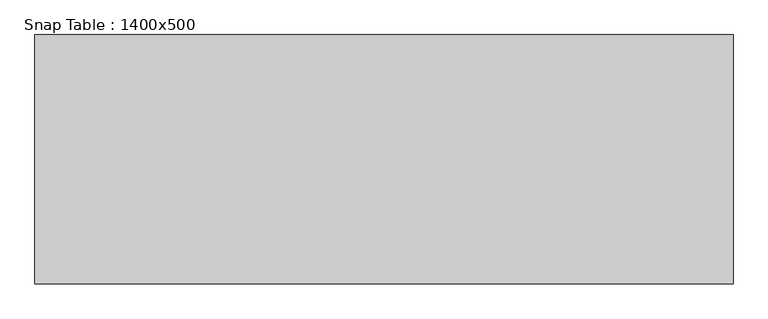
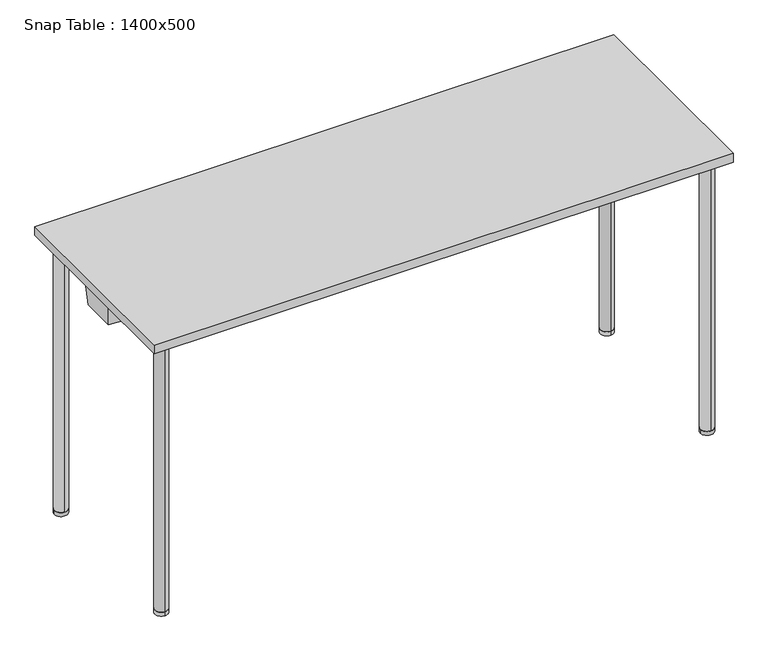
"""IFC4 building model written with IfcOpenShell, lengths in millimetres: furniture geometry, Snap Table : 1400x500."""

from ifc_helpers import new_model, si_unit, point, frame, frame_2d, origin, origin_with_axes, place, context, project, spatial, polyline, circle_curve, ellipse_curve, trimmed, segment, composite_curve, outline, extrude, faceted_brep, source, transform, mapped, element, save
from ifc_brep_helpers import plane_surface, cylinder_surface, revolved_surface, advanced_brep


def snap_table_1400x500_30d98579(model_context):
    return source(origin(), model_context, "Body", "SolidModel", [
        extrude(outline(composite_curve([segment(trimmed(circle_curve(frame_2d((660.0, -210.0)), 16.0), [point((676.0, -210.0))], [point((644.0, -210.0))], False, "CARTESIAN"), True, "CONTINUOUS"), segment(trimmed(circle_curve(frame_2d((660.0, -210.0)), 16.0), [point((644.0, -210.0))], [point((676.0, -210.0))], False, "CARTESIAN"), True, "CONTINUOUS")], self_intersect=False)), origin_with_axes(), (0.0, 0.0, 1.0), 10.0),
        extrude(outline(composite_curve([segment(trimmed(circle_curve(frame_2d((660.0, 210.0)), 16.0), [point((660.0, 194.0))], [point((660.0, 226.0))], False, "CARTESIAN"), True, "CONTINUOUS"), segment(trimmed(circle_curve(frame_2d((660.0, 210.0)), 16.0), [point((660.0, 226.0))], [point((660.0, 194.0))], False, "CARTESIAN"), True, "CONTINUOUS")], self_intersect=False)), origin_with_axes(), (0.0, 0.0, 1.0), 10.0),
        advanced_brep(
        [(660.0, -226.0, 10.0), (660.0, -194.0, 10.0), (660.0, -226.0, 689.0), (660.0, -194.0, 657.0), (660.0, 226.0, 689.0), (660.0, 194.0, 657.0), (660.0, 226.0, 10.0), (660.0, 194.0, 10.0)],
        [
            (0, 1, circle_curve(frame((660.0, -210.0, 10.0), z_axis=(0.0, 0.0, -1.0), x_axis=(0.0, 1.0, 0.0)), 16.0)),
            (1, 0, circle_curve(frame((660.0, -210.0, 10.0), z_axis=(0.0, 0.0, -1.0), x_axis=(0.0, 1.0, 0.0)), 16.0)),
            (0, 2),
            (2, 3, ellipse_curve(frame((660.0, -210.0, 673.0), z_axis=(0.0, -0.7071067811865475, -0.7071067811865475), x_axis=(0.0, 0.7071067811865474, -0.7071067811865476)), 22.627417, 16.0)),
            (3, 1),
            (3, 2, ellipse_curve(frame((660.0, -210.0, 673.0), z_axis=(0.0, -0.7071067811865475, -0.7071067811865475), x_axis=(0.0, 0.7071067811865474, -0.7071067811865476)), 22.627417, 16.0)),
            (2, 4),
            (4, 5, ellipse_curve(frame((660.0, 210.0, 673.0), z_axis=(0.0, -0.7071067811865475, 0.7071067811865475), x_axis=(0.0, -0.7071067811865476, -0.7071067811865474)), 22.627417, 16.0)),
            (5, 3),
            (5, 4, ellipse_curve(frame((660.0, 210.0, 673.0), z_axis=(0.0, -0.7071067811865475, 0.7071067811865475), x_axis=(0.0, -0.7071067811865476, -0.7071067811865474)), 22.627417, 16.0)),
            (6, 7, circle_curve(frame((660.0, 210.0, 10.0), z_axis=(0.0, 0.0, -1.0), x_axis=(0.0, -1.0, 0.0)), 16.0)),
            (7, 6, circle_curve(frame((660.0, 210.0, 10.0), z_axis=(0.0, 0.0, -1.0), x_axis=(0.0, -1.0, 0.0)), 16.0)),
            (4, 6),
            (7, 5),
        ],
        [
            plane_surface(frame((660.0, -210.0, 10.0), z_axis=(0.0, 0.0, -1.0), x_axis=(-1.0, 0.0, 0.0))),
            cylinder_surface(frame((660.0, -210.0, 10.0), z_axis=(0.0, 0.0, -1.0), x_axis=(0.0, 1.0, 0.0)), 16.0),
            cylinder_surface(frame((660.0, -210.0, 673.0), z_axis=(0.0, -1.0, 0.0), x_axis=(0.0, 0.0, -1.0)), 16.0),
            plane_surface(frame((660.0, 210.0, 10.0), z_axis=(0.0, 0.0, -1.0), x_axis=(-1.0, 0.0, 0.0))),
            cylinder_surface(frame((660.0, 210.0, 673.0), z_axis=(0.0, 0.0, 1.0), x_axis=(0.0, -1.0, 0.0)), 16.0),
        ],
        [
            (0, [[1, 2]]),
            (1, [[-1, 3, 4, 5]]),
            (1, [[-2, -5, 6, -3]]),
            (2, [[-4, 7, 8, 9]]),
            (2, [[-6, -9, 10, -7]]),
            (3, [[11, 12]]),
            (4, [[-8, 13, -12, 14]]),
            (4, [[-10, -14, -11, -13]]),
        ],
    ),
        extrude(outline(composite_curve([segment(trimmed(circle_curve(frame_2d((-660.0470276, 210.0)), 16.0), [point((-676.0470276, 210.0))], [point((-644.0470276, 210.0))], False, "CARTESIAN"), True, "CONTINUOUS"), segment(trimmed(circle_curve(frame_2d((-660.0470276, 210.0)), 16.0), [point((-644.0470276, 210.0))], [point((-676.0470276, 210.0))], False, "CARTESIAN"), True, "CONTINUOUS")], self_intersect=False)), origin_with_axes(), (0.0, 0.0, 1.0), 10.0),
        extrude(outline(composite_curve([segment(trimmed(circle_curve(frame_2d((-660.0470276, -210.0)), 16.0), [point((-660.0470276, -194.0))], [point((-660.0470276, -226.0))], False, "CARTESIAN"), True, "CONTINUOUS"), segment(trimmed(circle_curve(frame_2d((-660.0470276, -210.0)), 16.0), [point((-660.0470276, -226.0))], [point((-660.0470276, -194.0))], False, "CARTESIAN"), True, "CONTINUOUS")], self_intersect=False)), origin_with_axes(), (0.0, 0.0, 1.0), 10.0),
        advanced_brep(
        [(-660.0470276, 226.0, 10.0), (-660.0470276, 194.0, 10.0), (-660.0470276, 226.0, 689.0), (-660.0470276, 194.0, 657.0), (-660.0470276, -226.0, 689.0), (-660.0470276, -194.0, 657.0), (-660.0470276, -226.0, 10.0), (-660.0470276, -194.0, 10.0)],
        [
            (0, 1, circle_curve(frame((-660.0470276, 210.0, 10.0), z_axis=(0.0, 0.0, -1.0), x_axis=(0.0, -1.0, 0.0)), 16.0)),
            (1, 0, circle_curve(frame((-660.0470276, 210.0, 10.0), z_axis=(0.0, 0.0, -1.0), x_axis=(0.0, -1.0, 0.0)), 16.0)),
            (0, 2),
            (2, 3, ellipse_curve(frame((-660.0470276, 210.0, 673.0), z_axis=(0.0, 0.7071067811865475, -0.7071067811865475), x_axis=(0.0, -0.7071067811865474, -0.7071067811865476)), 22.627417, 16.0)),
            (3, 1),
            (3, 2, ellipse_curve(frame((-660.0470276, 210.0, 673.0), z_axis=(0.0, 0.7071067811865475, -0.7071067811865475), x_axis=(0.0, -0.7071067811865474, -0.7071067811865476)), 22.627417, 16.0)),
            (2, 4),
            (4, 5, ellipse_curve(frame((-660.0470276, -210.0, 673.0), z_axis=(0.0, 0.7071067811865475, 0.7071067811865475), x_axis=(0.0, 0.7071067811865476, -0.7071067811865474)), 22.627417, 16.0)),
            (5, 3),
            (5, 4, ellipse_curve(frame((-660.0470276, -210.0, 673.0), z_axis=(0.0, 0.7071067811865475, 0.7071067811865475), x_axis=(0.0, 0.7071067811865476, -0.7071067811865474)), 22.627417, 16.0)),
            (6, 7, circle_curve(frame((-660.0470276, -210.0, 10.0), z_axis=(0.0, 0.0, -1.0), x_axis=(0.0, 1.0, 0.0)), 16.0)),
            (7, 6, circle_curve(frame((-660.0470276, -210.0, 10.0), z_axis=(0.0, 0.0, -1.0), x_axis=(0.0, 1.0, 0.0)), 16.0)),
            (4, 6),
            (7, 5),
        ],
        [
            plane_surface(frame((-660.0470276, 210.0, 10.0), z_axis=(0.0, 0.0, -1.0), x_axis=(1.0, 0.0, 0.0))),
            cylinder_surface(frame((-660.0470276, 210.0, 10.0), z_axis=(0.0, 0.0, -1.0), x_axis=(0.0, -1.0, 0.0)), 16.0),
            cylinder_surface(frame((-660.0470276, 210.0, 673.0), z_axis=(0.0, 1.0, 0.0), x_axis=(0.0, 0.0, -1.0)), 16.0),
            plane_surface(frame((-660.0470276, -210.0, 10.0), z_axis=(0.0, 0.0, -1.0), x_axis=(1.0, 0.0, 0.0))),
            cylinder_surface(frame((-660.0470276, -210.0, 673.0), z_axis=(0.0, 0.0, 1.0), x_axis=(0.0, 1.0, 0.0)), 16.0),
        ],
        [
            (0, [[1, 2]]),
            (1, [[-1, 3, 4, 5]]),
            (1, [[-2, -5, 6, -3]]),
            (2, [[-4, 7, 8, 9]]),
            (2, [[-6, -9, 10, -7]]),
            (3, [[11, 12]]),
            (4, [[-8, 13, -12, 14]]),
            (4, [[-10, -14, -11, -13]]),
        ],
    ),
        extrude(outline(polyline([(700.0, 250.0), (700.0, -250.0), (-700.0, -250.0), (-700.0, 250.0), (700.0, 250.0)])), frame((0.0, 0.0, 698.0), z_axis=(0.0, 0.0, 1.0), x_axis=(1.0, 0.0, 0.0)), (0.0, 0.0, 1.0), 22.0),
        advanced_brep(
        [(-690.8110657, 42.2236058, 643.0), (-657.6910354, 44.5767873, 643.0), (-640.5708933, 36.0824003, 643.0), (640.5710292, 36.0824678, 643.0), (657.6910354, 44.5767873, 643.0), (690.8110657, 42.2236058, 643.0), (690.8110657, -42.2236058, 643.0), (657.6044607, -44.2417031, 643.0), (640.4018781, -36.0497649, 643.0), (-640.4020196, -36.0498323, 643.0), (-657.6044607, -44.2417031, 643.0), (-690.8110657, -42.2236058, 643.0), (-694.8110657, 48.9570516, 698.0), (-694.8110657, -48.9934252, 698.0), (-656.225892, -51.3383995, 698.0), (-634.6205129, -41.049832, 698.0), (634.6203726, -41.0497652, 698.0), (656.225892, -51.3383995, 698.0), (694.8110657, -48.9934252, 698.0), (694.8110657, 48.9570516, 698.0), (656.286594, 51.6942192, 698.0), (634.8989768, 41.0824675, 698.0), (-634.8988421, 41.0824006, 698.0), (-656.286594, 51.6942192, 698.0), (-657.2475737, -46.0789118, 657.2385232), (-676.0, -46.9489596, 673.0), (-656.4614069, -50.125999, 688.6037931), (-644.0, -41.9922101, 673.0), (657.2475737, -46.0789118, 657.2385232), (644.0, -41.9922101, 673.0), (656.4614069, -50.125999, 688.6037931), (676.0, -46.9489596, 673.0), (657.3278029, 46.4175782, 657.2247231), (676.0, 47.1037405, 673.0), (656.5261576, 50.4801582, 688.618336), (644.0, 42.0461233, 673.0), (-657.3278029, 46.4175782, 657.2247231), (-644.0, 42.0461233, 673.0), (-656.5261576, 50.4801582, 688.618336), (-676.0, 47.1037405, 673.0)],
        [
            (0, 1),
            (1, 2),
            (2, 3),
            (3, 4),
            (4, 5),
            (5, 6),
            (6, 7),
            (7, 8),
            (8, 9),
            (9, 10),
            (10, 11),
            (11, 0),
            (12, 13),
            (13, 14),
            (14, 15),
            (15, 16),
            (16, 17),
            (17, 18),
            (18, 19),
            (19, 20),
            (20, 21),
            (21, 22),
            (22, 23),
            (23, 12),
            (11, 13),
            (12, 0),
            (10, 24),
            (24, 25, ellipse_curve(frame((-660.0, -47.9213432, 673.0), z_axis=(0.060176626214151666, 0.9901710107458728, 0.12625427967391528), x_axis=(0.426028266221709, -0.13986196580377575, 0.8938336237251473)), 16.1588249, 16.0)),
            (25, 26, ellipse_curve(frame((-660.0, -47.9213432, 673.0), z_axis=(0.060176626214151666, 0.9901710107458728, 0.12625427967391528), x_axis=(0.426028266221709, -0.13986196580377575, 0.8938336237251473)), 16.1588249, 16.0)),
            (26, 14),
            (9, 15),
            (26, 27, ellipse_curve(frame((-660.0, -49.6114737, 673.0), z_axis=(-0.4265030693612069, 0.8956310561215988, 0.12625427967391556), x_axis=(-0.8587935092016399, -0.44479771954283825, 0.25422174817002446)), 17.8644989, 16.0)),
            (27, 24, ellipse_curve(frame((-660.0, -49.6114737, 673.0), z_axis=(-0.4265030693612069, 0.8956310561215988, 0.12625427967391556), x_axis=(-0.8587935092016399, -0.44479771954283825, 0.25422174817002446)), 17.8644989, 16.0)),
            (8, 16),
            (7, 28),
            (28, 29, ellipse_curve(frame((660.0, -49.6114737, 673.0), z_axis=(0.4265030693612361, 0.8956310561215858, 0.1262542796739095), x_axis=(0.8587935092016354, -0.4447977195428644, 0.25422174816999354)), 17.8644989, 16.0)),
            (29, 30, ellipse_curve(frame((660.0, -49.6114737, 673.0), z_axis=(0.4265030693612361, 0.8956310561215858, 0.1262542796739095), x_axis=(0.8587935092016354, -0.4447977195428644, 0.25422174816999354)), 17.8644989, 16.0)),
            (30, 17),
            (6, 18),
            (30, 31, ellipse_curve(frame((660.0, -47.9213432, 673.0), z_axis=(-0.06017662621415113, 0.9901710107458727, 0.12625427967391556), x_axis=(-0.426028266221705, -0.1398619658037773, 0.8938336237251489)), 16.1588249, 16.0)),
            (31, 28, ellipse_curve(frame((660.0, -47.9213432, 673.0), z_axis=(-0.06017662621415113, 0.9901710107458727, 0.12625427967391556), x_axis=(-0.426028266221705, -0.1398619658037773, 0.8938336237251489)), 16.1588249, 16.0)),
            (5, 19),
            (4, 32),
            (32, 33, ellipse_curve(frame((660.0, 48.2405422, 673.0), z_axis=(-0.0703043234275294, -0.9895034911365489, 0.12625427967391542), x_axis=(0.4813983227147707, -0.14450896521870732, -0.8645072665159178)), 16.1697257, 16.0)),
            (33, 34, ellipse_curve(frame((660.0, 48.2405422, 673.0), z_axis=(-0.0703043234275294, -0.9895034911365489, 0.12625427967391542), x_axis=(0.4813983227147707, -0.14450896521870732, -0.8645072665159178)), 16.1697257, 16.0)),
            (34, 20),
            (3, 21),
            (34, 35, ellipse_curve(frame((660.0, 49.9847369, 673.0), z_axis=(0.4409053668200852, -0.8886294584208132, 0.12625427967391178), x_axis=(-0.854294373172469, -0.45862586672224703, -0.24462918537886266)), 18.005255, 16.0)),
            (35, 32, ellipse_curve(frame((660.0, 49.9847369, 673.0), z_axis=(0.4409053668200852, -0.8886294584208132, 0.12625427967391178), x_axis=(-0.854294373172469, -0.45862586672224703, -0.24462918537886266)), 18.005255, 16.0)),
            (2, 22),
            (1, 36),
            (36, 37, ellipse_curve(frame((-660.0, 49.9847369, 673.0), z_axis=(-0.44090536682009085, -0.8886294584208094, 0.12625427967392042), x_axis=(0.8542943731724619, -0.45862586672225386, -0.24462918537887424)), 18.005255, 16.0)),
            (37, 38, ellipse_curve(frame((-660.0, 49.9847369, 673.0), z_axis=(-0.44090536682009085, -0.8886294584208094, 0.12625427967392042), x_axis=(0.8542943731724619, -0.45862586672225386, -0.24462918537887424)), 18.005255, 16.0)),
            (38, 23),
            (38, 39, ellipse_curve(frame((-660.0, 48.2405422, 673.0), z_axis=(0.07030432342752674, -0.9895034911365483, 0.12625427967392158), x_axis=(-0.48139832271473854, -0.14450896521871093, -0.8645072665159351)), 16.1697257, 16.0)),
            (39, 36, ellipse_curve(frame((-660.0, 48.2405422, 673.0), z_axis=(0.07030432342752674, -0.9895034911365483, 0.12625427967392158), x_axis=(-0.48139832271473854, -0.14450896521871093, -0.8645072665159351)), 16.1697257, 16.0)),
            (35, 29),
            (31, 33),
            (39, 25),
            (27, 37),
        ],
        [
            plane_surface(frame((-5e-07, 0.0612866, 643.0), z_axis=(0.0, 0.0, -1.0), x_axis=(0.0, -1.0, 0.0))),
            plane_surface(frame((-5e-07, 0.0586803, 698.0), z_axis=(0.0, 0.0, 1.0), x_axis=(0.0, -1.0, 0.0))),
            plane_surface(frame((-694.8110657, -0.0181868, 698.0), z_axis=(-0.9973658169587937, 0.0, -0.07253569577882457), x_axis=(0.0, 1.0, 0.0))),
            plane_surface(frame((-675.5184789, -50.1659123, 698.0), z_axis=(-0.060176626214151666, -0.9901710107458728, -0.12625427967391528), x_axis=(-0.9981583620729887, 0.06066204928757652, 0.0))),
            plane_surface(frame((-645.4232025, -46.1941158, 698.0), z_axis=(0.4265030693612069, -0.8956310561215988, -0.12625427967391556), x_axis=(-0.9028557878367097, -0.4299435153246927, 0.0))),
            plane_surface(frame((-7.01e-05, -41.0497986, 698.0), z_axis=(5.2413477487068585e-08, -0.9958932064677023, -0.09053574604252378), x_axis=(-0.9999999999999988, -5.262961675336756e-08, 0.0))),
            plane_surface(frame((645.4231323, -46.1940824, 698.0), z_axis=(-0.4265030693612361, -0.8956310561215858, -0.1262542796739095), x_axis=(-0.9028557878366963, 0.42994351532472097, 0.0))),
            plane_surface(frame((675.5184789, -50.1659123, 698.0), z_axis=(0.060176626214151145, -0.9901710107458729, -0.1262542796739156), x_axis=(-0.9981583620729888, -0.060662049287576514, 0.0))),
            plane_surface(frame((694.8110657, -0.0181868, 698.0), z_axis=(0.997365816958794, 0.0, -0.07253569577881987), x_axis=(0.0, -1.0, 0.0))),
            plane_surface(frame((675.5488298, 50.3256354, 698.0), z_axis=(0.0703043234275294, 0.9895034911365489, -0.12625427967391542), x_axis=(0.9974854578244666, -0.07087144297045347, 0.0))),
            plane_surface(frame((645.5927854, 46.3883433, 698.0), z_axis=(-0.4409053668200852, 0.8886294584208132, -0.12625427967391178), x_axis=(0.8957977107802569, 0.44446199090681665, 0.0))),
            plane_surface(frame((6.73e-05, 41.082434, 698.0), z_axis=(-5.2413477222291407e-08, 0.9958932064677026, -0.09053574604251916), x_axis=(0.9999999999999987, 5.2629615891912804e-08, 0.0))),
            plane_surface(frame((-645.5927181, 46.3883099, 698.0), z_axis=(0.44090536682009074, 0.8886294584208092, -0.1262542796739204), x_axis=(0.8957977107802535, -0.4444619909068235, 0.0))),
            plane_surface(frame((-675.5488298, 50.3256354, 698.0), z_axis=(-0.07030432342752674, 0.9895034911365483, -0.12625427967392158), x_axis=(0.9974854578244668, 0.07087144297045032, 0.0))),
            revolved_surface(polyline([(676.0, -57.55756207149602, 673.0), (676.0, 58.242412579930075, 673.0)]), (660.0, 70.0, 673.0), (0.0, -1.0, 0.0)),
            revolved_surface(polyline([(-676.0, -57.55756207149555, 673.0), (-676.0, 58.242412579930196, 673.0)]), (-660.0, 70.0, 673.0), (0.0, -1.0, 0.0)),
        ],
        [
            (0, [[1, 2, 3, 4, 5, 6, 7, 8, 9, 10, 11, 12]]),
            (1, [[13, 14, 15, 16, 17, 18, 19, 20, 21, 22, 23, 24]]),
            (2, [[-12, 25, -13, 26]]),
            (3, [[-11, 27, 28, 29, 30, -14, -25]]),
            (4, [[-10, 31, -15, -30, 32, 33, -27]]),
            (5, [[-9, 34, -16, -31]]),
            (6, [[-8, 35, 36, 37, 38, -17, -34]]),
            (7, [[-7, 39, -18, -38, 40, 41, -35]]),
            (8, [[-6, 42, -19, -39]]),
            (9, [[-5, 43, 44, 45, 46, -20, -42]]),
            (10, [[-4, 47, -21, -46, 48, 49, -43]]),
            (11, [[-3, 50, -22, -47]]),
            (12, [[-2, 51, 52, 53, 54, -23, -50]]),
            (13, [[-1, -26, -24, -54, 55, 56, -51]]),
            (14, [[57, -36, -41, 58, -44, -49]]),
            (14, [[-57, -48, -45, -58, -40, -37]]),
            (15, [[59, -28, -33, 60, -52, -56]]),
            (15, [[-59, -55, -53, -60, -32, -29]]),
        ],
    ),
        faceted_brep([(630.1271057, 132.1409864, 643.0), (630.1271057, 177.0366315, 643.0), (641.3990784, 177.0366315, 643.0), (641.3990784, 132.1409864, 643.0), (626.2186584, 128.0138349, 688.0), (644.2631531, 128.0138349, 688.0), (644.2631531, 181.163783, 688.0), (626.2186584, 181.163783, 688.0)], [[[0, 1, 2, 3]], [[4, 5, 6, 7]], [[5, 4, 0, 3]], [[6, 5, 3, 2]], [[7, 6, 2, 1]], [[4, 7, 1, 0]]]),
        extrude(outline(polyline([(626.2186584, 181.163783), (677.86026, 181.163783), (677.86026, 128.0138349), (626.2186584, 128.0138349), (626.2186584, 181.163783)])), frame((0.0, 0.0, 688.0), z_axis=(0.0, 0.0, 1.0), x_axis=(1.0, 0.0, 0.0)), (0.0, 0.0, 1.0), 10.0),
        faceted_brep([(630.1271057, -132.1409864, 643.0), (641.3990784, -132.1409864, 643.0), (641.3990784, -177.0366315, 643.0), (630.1271057, -177.0366315, 643.0), (626.2186584, -128.0138349, 688.0), (626.2186584, -181.163783, 688.0), (644.2631531, -181.163783, 688.0), (644.2631531, -128.0138349, 688.0)], [[[0, 1, 2, 3]], [[4, 5, 6, 7]], [[4, 7, 1, 0]], [[7, 6, 2, 1]], [[6, 5, 3, 2]], [[5, 4, 0, 3]]]),
        extrude(outline(polyline([(626.2186584, -181.163783), (626.2186584, -128.0138349), (677.86026, -128.0138349), (677.86026, -181.163783), (626.2186584, -181.163783)])), frame((0.0, 0.0, 688.0), z_axis=(0.0, 0.0, 1.0), x_axis=(1.0, 0.0, 0.0)), (0.0, 0.0, 1.0), 10.0),
        faceted_brep([(-630.1271057, 132.1409864, 643.0), (-641.3990784, 132.1409864, 643.0), (-641.3990784, 177.0366315, 643.0), (-630.1271057, 177.0366315, 643.0), (-626.2186584, 128.0138349, 688.0), (-626.2186584, 181.163783, 688.0), (-644.2631531, 181.163783, 688.0), (-644.2631531, 128.0138349, 688.0)], [[[0, 1, 2, 3]], [[4, 5, 6, 7]], [[4, 7, 1, 0]], [[7, 6, 2, 1]], [[6, 5, 3, 2]], [[5, 4, 0, 3]]]),
        extrude(outline(polyline([(-626.2186584, 181.163783), (-626.2186584, 128.0138349), (-677.86026, 128.0138349), (-677.86026, 181.163783), (-626.2186584, 181.163783)])), frame((0.0, 0.0, 688.0), z_axis=(0.0, 0.0, 1.0), x_axis=(1.0, 0.0, 0.0)), (0.0, 0.0, 1.0), 10.0),
        faceted_brep([(-630.1271057, -132.1409864, 643.0), (-630.1271057, -177.0366315, 643.0), (-641.3990784, -177.0366315, 643.0), (-641.3990784, -132.1409864, 643.0), (-626.2186584, -128.0138349, 688.0), (-644.2631531, -128.0138349, 688.0), (-644.2631531, -181.163783, 688.0), (-626.2186584, -181.163783, 688.0)], [[[0, 1, 2, 3]], [[4, 5, 6, 7]], [[5, 4, 0, 3]], [[6, 5, 3, 2]], [[7, 6, 2, 1]], [[4, 7, 1, 0]]]),
        extrude(outline(polyline([(-626.2186584, -181.163783), (-677.86026, -181.163783), (-677.86026, -128.0138349), (-626.2186584, -128.0138349), (-626.2186584, -181.163783)])), frame((0.0, 0.0, 688.0), z_axis=(0.0, 0.0, 1.0), x_axis=(1.0, 0.0, 0.0)), (0.0, 0.0, 1.0), 10.0),
    ])


if __name__ == "__main__":
    model = new_model("IFC4")
    model_context = context("Model", 3, world=origin())
    ifc_project = project(units=[si_unit("LENGTHUNIT", "METRE", prefix="MILLI")], contexts=[model_context])
    site = spatial("IfcSite", under=ifc_project)
    building = spatial("IfcBuilding", under=site)
    placement = place(None, origin())
    snap_table_1400x500_shape = snap_table_1400x500_30d98579(model_context)
    element("IfcFurniture", 1, ObjectType="Snap Table : 1400x500", at=placement, inside=building, context=model_context, shape_type="MappedRepresentation", body=[
        mapped(snap_table_1400x500_shape, transform((0.0, 0.0, 0.0), x_axis=(1.0, 0.0, 0.0), y_axis=(0.0, 1.0, 0.0), z_axis=(0.0, 0.0, 1.0))),
    ])
    save(model, "model.ifc")
